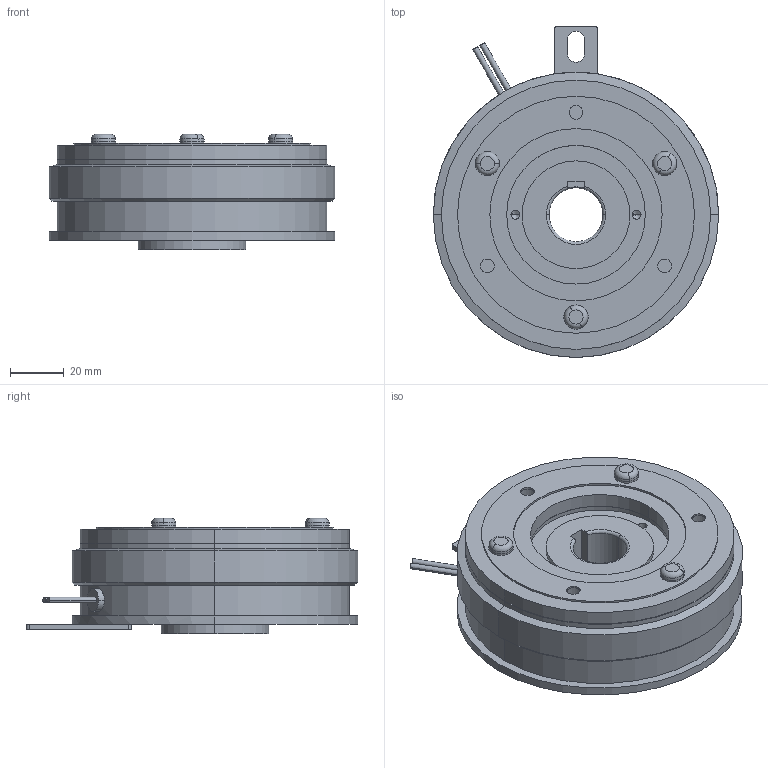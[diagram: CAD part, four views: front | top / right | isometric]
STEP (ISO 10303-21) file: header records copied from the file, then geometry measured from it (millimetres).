
FILE_DESCRIPTION (( 'STEP AP214' ), '1' );
FILE_NAME ('CS-10-33G 20DIN.STEP', '2018-02-21T05:51:13', ( 'MIKI' ), ( '' ), 'SwSTEP 2.0', 'SolidWorks 2012', '' );
FILE_SCHEMA (( 'AUTOMOTIVE_DESIGN' ));
Length unit declared in the file: millimetre
Products named in the file (1): CS-10-33G 20DIN
Bounding box: 106 x 123 x 42.9 mm (x, y, z)
Volume: 275348.2 mm3; surface area: 42875.3 mm2
Topology: 1 solids, 2 shells, 151 faces, 330 edges, 204 vertices
Faces by surface type: cylinder 75, plane 42, cone 22, torus 12
Entity records: 5889 total; most frequent: DIRECTION 808, CARTESIAN_POINT 746, ORIENTED_EDGE 644, AXIS2_PLACEMENT_3D 340, EDGE_CURVE 322, VERTEX_POINT 204, CIRCLE 188, EDGE_LOOP 186
